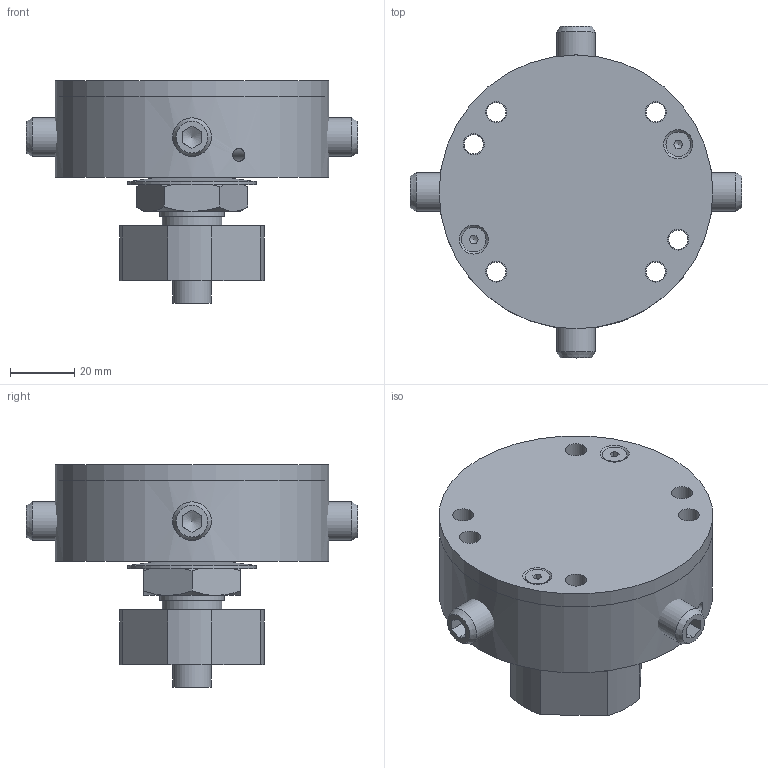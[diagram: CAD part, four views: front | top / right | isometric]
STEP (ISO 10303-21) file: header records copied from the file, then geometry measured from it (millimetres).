
FILE_DESCRIPTION(/* description */ (''),/* implementation_level */ '2;1');
FILE_NAME(/* name */ 'C:\Local Work Area\Progetti\AP\CALIBRI\330.00 Fissaggio conico\330.00.stp',/* time_stamp */ '2017-03-21T16:18:27+01:00',/* author */ ('CAD5'),/* organization */ (''),/* preprocessor_version */ 'ST-DEVELOPER v16.1',/* originating_system */ 'Autodesk Inventor 2016',/* authorisation */ '0 mm^3');
FILE_SCHEMA (('AUTOMOTIVE_DESIGN { 1 0 10303 214 3 1 1 }'));
Length unit declared in the file: millimetre
Products named in the file (10): 325.01; 325.02; 325.05; 330.01; UNI 5589 basso - M20 - 1,5; 330.02; 325.04; BAUER 40x20.4x1 C24020 DIM; UNI 5933 - M4 x 10; 330.00
Assembly tree (13 placements, depth 2):
  330.00
    325.01
    325.02
    325.05  x4
    330.01
    UNI 5589 basso - M20 - 1,5
    330.02
    325.04
    BAUER 40x20.4x1 C24020 DIM
    UNI 5933 - M4 x 10  x2
Bounding box: 103 x 103 x 69 mm (x, y, z)
Volume: 184796.4 mm3; surface area: 65992.1 mm2
Topology: 13 solids, 13 shells, 193 faces, 444 edges, 282 vertices
Faces by surface type: plane 96, cylinder 50, cone 44, torus 3
Full cylindrical faces by diameter (mm): 3.242 x2, 4 x3, 4.5 x2, 6 x6, 6.5 x6, 7.64 x2, 8.376 x1, 10.106 x4, 10.2 x1, 11 x4, 12 x5, 18.376 x2, 18.5 x1, 20 x1, 31 x1, 37 x1, 40 x1, 55 x1, 85 x2
Entity records: 4167 total; most frequent: CARTESIAN_POINT 1018, DIRECTION 640, ORIENTED_EDGE 488, AXIS2_PLACEMENT_3D 277, EDGE_LOOP 262, EDGE_CURVE 244, VERTEX_POINT 188, FACE_OUTER_BOUND 144
